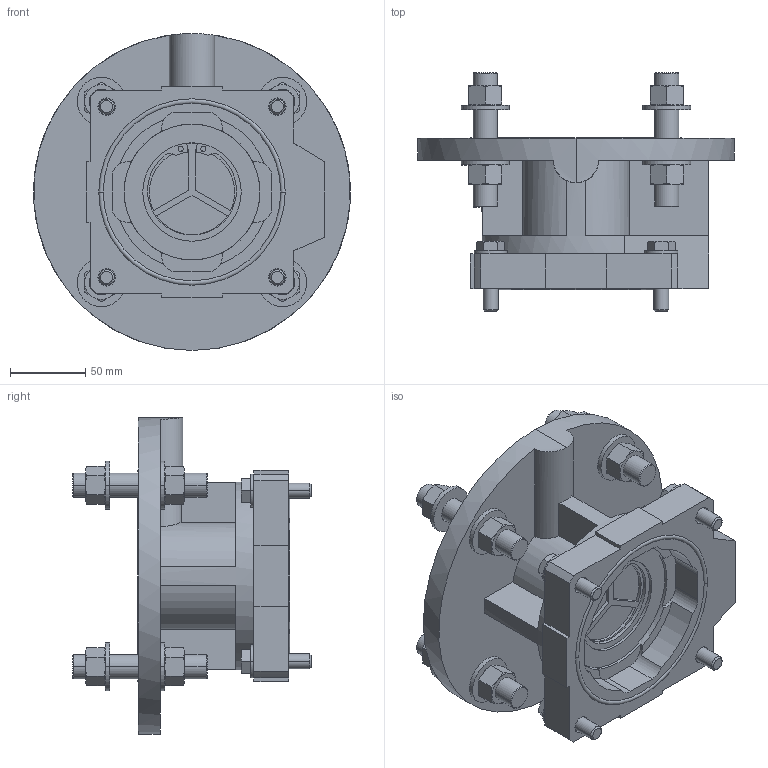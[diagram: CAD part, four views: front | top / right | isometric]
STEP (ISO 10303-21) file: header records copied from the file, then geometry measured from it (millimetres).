
FILE_DESCRIPTION((''),'2;1');
FILE_NAME('971463890','2009-04-02T',('L2200051'),('Copyright by Leybold GmbH'),'PRO/ENGINEER BY PARAMETRIC TECHNOLOGY CORPORATION, 2007390','PRO/ENGINEER BY PARAMETRIC TECHNOLOGY CORPORATION, 2007390','');
FILE_SCHEMA(('AUTOMOTIVE_DESIGN { 1 0 10303 214 1 1 1 1 }'));
Length unit declared in the file: millimetre
Products named in the file (1): 971463890
Bounding box: 210 x 158 x 210 mm (x, y, z)
Volume: 1159729.6 mm3; surface area: 219461.3 mm2
Topology: 1 solids, 1 shells, 510 faces, 1194 edges, 750 vertices
Faces by surface type: plane 221, cone 144, cylinder 141, torus 2, bspline 2
Entity records: 16455 total; most frequent: CARTESIAN_POINT 4695, DIRECTION 2440, ORIENTED_EDGE 2388, EDGE_CURVE 1194, AXIS2_PLACEMENT_3D 983, VERTEX_POINT 750, EDGE_LOOP 578, FACE_OUTER_BOUND 510
